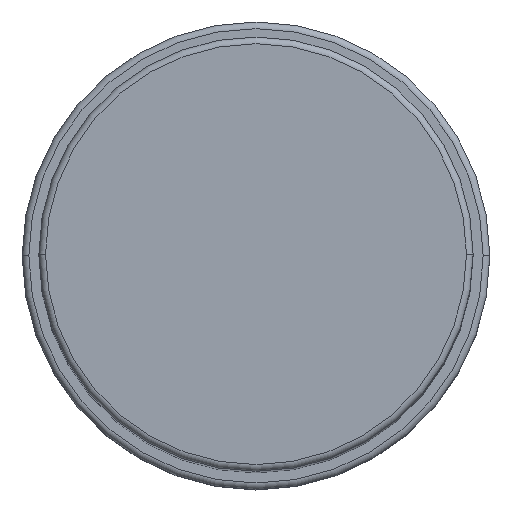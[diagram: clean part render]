
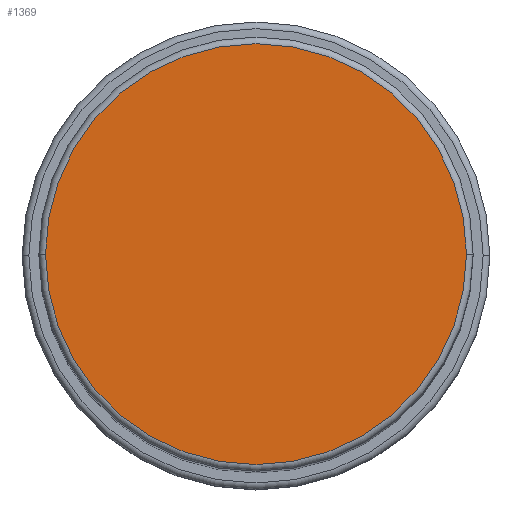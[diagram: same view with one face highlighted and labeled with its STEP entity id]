
A CAD part, top view. The second image highlights one B-rep face of the part: STEP entity #1369.
In plain terms, the highlighted planar face has unit normal (0, 0, 1).
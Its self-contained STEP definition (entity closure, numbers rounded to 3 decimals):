
#9 = EDGE_LOOP ( 'NONE', ( #2502, #3448 ) ) ;
#420 = DIRECTION ( 'NONE',  ( 0., 0., 1. ) ) ;
#567 = AXIS2_PLACEMENT_3D ( 'NONE', #3994, #1953, #1110 ) ;
#856 = EDGE_CURVE ( 'NONE', #4531, #2739, #1797, .T. ) ;
#1110 = DIRECTION ( 'NONE',  ( 1., 0., 0. ) ) ;
#1247 = FACE_OUTER_BOUND ( 'NONE', #9, .T. ) ;
#1369 = ADVANCED_FACE ( 'NONE', ( #1247 ), #2456, .T. ) ;
#1797 = CIRCLE ( 'NONE', #567, 31.5 ) ;
#1953 = DIRECTION ( 'NONE',  ( 0., 0., 1. ) ) ;
#1983 = AXIS2_PLACEMENT_3D ( 'NONE', #2427, #2391, #5365 ) ;
#2391 = DIRECTION ( 'NONE',  ( 0., 0., 1. ) ) ;
#2427 = CARTESIAN_POINT ( 'NONE',  ( 0., 0., 158. ) ) ;
#2456 = PLANE ( 'NONE',  #1983 ) ;
#2502 = ORIENTED_EDGE ( 'NONE', *, *, #856, .T. ) ;
#2538 = DIRECTION ( 'NONE',  ( 1., 0., 0. ) ) ;
#2550 = AXIS2_PLACEMENT_3D ( 'NONE', #4970, #420, #2538 ) ;
#2739 = VERTEX_POINT ( 'NONE', #5081 ) ;
#3448 = ORIENTED_EDGE ( 'NONE', *, *, #3678, .T. ) ;
#3678 = EDGE_CURVE ( 'NONE', #2739, #4531, #5331, .T. ) ;
#3994 = CARTESIAN_POINT ( 'NONE',  ( 0., 0., 158. ) ) ;
#4531 = VERTEX_POINT ( 'NONE', #4837 ) ;
#4837 = CARTESIAN_POINT ( 'NONE',  ( 31.5, 0., 158. ) ) ;
#4970 = CARTESIAN_POINT ( 'NONE',  ( 0., 0., 158. ) ) ;
#5081 = CARTESIAN_POINT ( 'NONE',  ( -31.5, 0., 158. ) ) ;
#5331 = CIRCLE ( 'NONE', #2550, 31.5 ) ;
#5365 = DIRECTION ( 'NONE',  ( 1., 0., 0. ) ) ;
